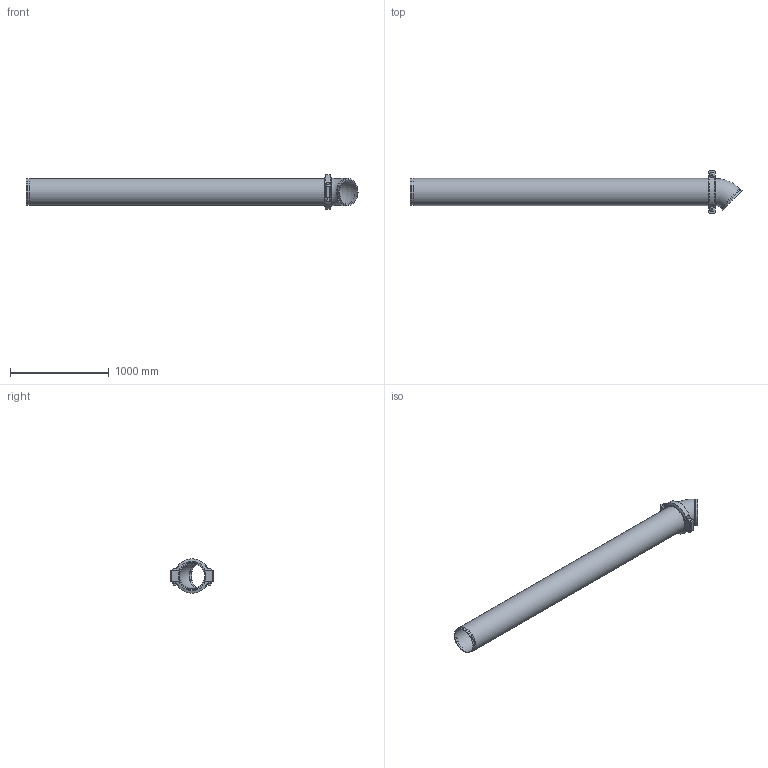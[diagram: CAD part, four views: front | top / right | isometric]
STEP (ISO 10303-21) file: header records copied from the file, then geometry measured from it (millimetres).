
FILE_DESCRIPTION(/* description */ ('VIC LONG RUN FITTING No R24 (OGS)','CAx-IF Rec.Pracs.---Representation and Presentation of Product Manufacturing Information (PMI)---4.0---2014-10-13'),/* implementation_level */ '2;1');
FILE_NAME(/* name */ 'C:\Users\Vjadhav\AppData\Roaming\Autodesk\ApplicationPlugins\Back Up\Victaulic_IPS_Long Run Fittings_No R24 (OGS)\Victaulic_IPS_Long Run Fittings_No R24 (OGS)_10 (250).stp',/* time_stamp */ '2020-10-13T19:14:03+06:00',/* author */ ('Vjadhav'),/* organization */ ('Victaulic'),/* preprocessor_version */ 'ST-DEVELOPER v17.2',/* originating_system */ 'Autodesk Inventor 2019',/* authorisation */ '');
FILE_SCHEMA (('AP242_MANAGED_MODEL_BASED_3D_ENGINEERING_MIM_LF { 1 0 10303 442 1 1 4 }'));
Length unit declared in the file: inch
Products named in the file (4): R24-10.0; 011-10.0; Pipe_R13-10.0; 077-10.0
Assembly tree (3 placements, depth 2):
  R24-10.0
    011-10.0
    Pipe_R13-10.0
    077-10.0
Bounding box: 3353.8 x 435.1 x 344.9 mm (x, y, z)
Volume: 28034200.3 mm3; surface area: 5762727.7 mm2
Topology: 3 solids, 5 shells, 87 faces, 209 edges, 148 vertices
Faces by surface type: plane 48, cylinder 31, cone 4, torus 2, bspline 2
Full cylindrical faces by diameter (mm): 25.4 x4, 27.432 x2, 254.508 x3, 264.16 x1, 268.275 x4, 273.05 x7
Entity records: 3063 total; most frequent: CARTESIAN_POINT 675, DIRECTION 473, ORIENTED_EDGE 418, EDGE_CURVE 209, AXIS2_PLACEMENT_3D 192, VERTEX_POINT 148, EDGE_LOOP 113, CIRCLE 100
